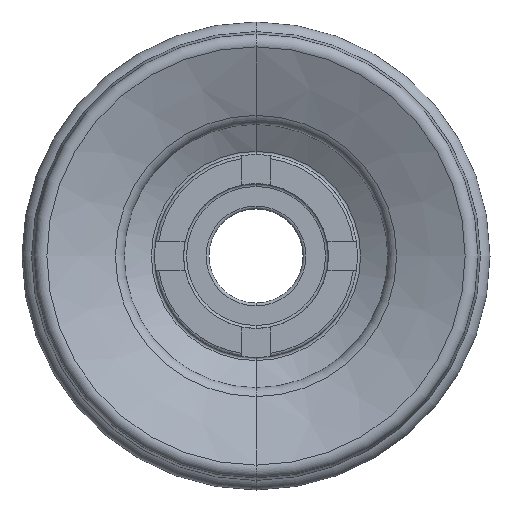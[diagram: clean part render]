
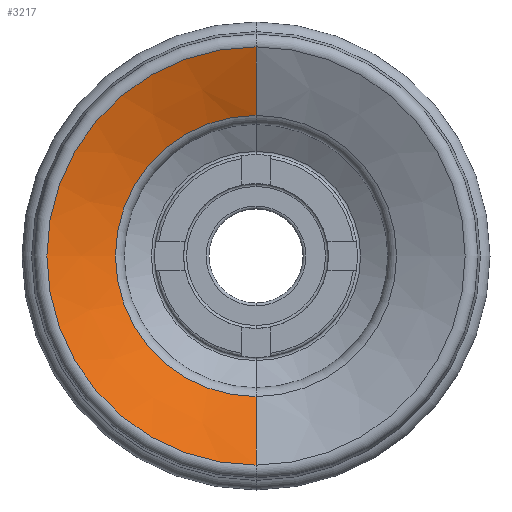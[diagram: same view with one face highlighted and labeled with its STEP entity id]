
A CAD part, front view. The second image highlights one B-rep face of the part: STEP entity #3217.
In plain terms, the highlighted conical face has half-angle 67.074 degrees and reference radius 9.71 mm.
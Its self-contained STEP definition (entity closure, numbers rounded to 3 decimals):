
#71 = DIRECTION ( 'NONE',  ( 0., 1., 0. ) ) ;
#174 = DIRECTION ( 'NONE',  ( 0., 1., 0. ) ) ;
#182 = CIRCLE ( 'NONE', #3145, 14.447 ) ;
#278 = VERTEX_POINT ( 'NONE', #2121 ) ;
#302 = VECTOR ( 'NONE', #1058, 1000. ) ;
#352 = DIRECTION ( 'NONE',  ( 0., -0.39, -0.921 ) ) ;
#366 = CARTESIAN_POINT ( 'NONE',  ( 0., -17.149, 14.447 ) ) ;
#465 = CIRCLE ( 'NONE', #3227, 9.71 ) ;
#481 = EDGE_CURVE ( 'NONE', #2558, #2421, #182, .T. ) ;
#543 = CARTESIAN_POINT ( 'NONE',  ( 0., -15.145, 9.71 ) ) ;
#597 = ORIENTED_EDGE ( 'NONE', *, *, #1752, .T. ) ;
#636 = FACE_OUTER_BOUND ( 'NONE', #940, .T. ) ;
#643 = CARTESIAN_POINT ( 'NONE',  ( 0., -15.145, -9.71 ) ) ;
#646 = CARTESIAN_POINT ( 'NONE',  ( 0., -17.149, -14.447 ) ) ;
#842 = CARTESIAN_POINT ( 'NONE',  ( 0., -17.149, 0. ) ) ;
#940 = EDGE_LOOP ( 'NONE', ( #597, #2718, #3111, #2508 ) ) ;
#1058 = DIRECTION ( 'NONE',  ( 0., -0.39, 0.921 ) ) ;
#1063 = DIRECTION ( 'NONE',  ( 0., 0., 1. ) ) ;
#1134 = AXIS2_PLACEMENT_3D ( 'NONE', #2600, #2323, #2806 ) ;
#1174 = CARTESIAN_POINT ( 'NONE',  ( 0., -15.145, 0. ) ) ;
#1291 = CARTESIAN_POINT ( 'NONE',  ( 0., -15.145, 9.71 ) ) ;
#1451 = EDGE_CURVE ( 'NONE', #2811, #2421, #2411, .T. ) ;
#1461 = LINE ( 'NONE', #643, #2629 ) ;
#1642 = CONICAL_SURFACE ( 'NONE', #1134, 9.71, 1.171 ) ;
#1691 = EDGE_CURVE ( 'NONE', #278, #2558, #1461, .T. ) ;
#1752 = EDGE_CURVE ( 'NONE', #278, #2811, #465, .T. ) ;
#2121 = CARTESIAN_POINT ( 'NONE',  ( 0., -15.145, -9.71 ) ) ;
#2323 = DIRECTION ( 'NONE',  ( 0., -1., 0. ) ) ;
#2411 = LINE ( 'NONE', #543, #302 ) ;
#2421 = VERTEX_POINT ( 'NONE', #366 ) ;
#2508 = ORIENTED_EDGE ( 'NONE', *, *, #1691, .F. ) ;
#2558 = VERTEX_POINT ( 'NONE', #646 ) ;
#2600 = CARTESIAN_POINT ( 'NONE',  ( 0., -15.145, 0. ) ) ;
#2629 = VECTOR ( 'NONE', #352, 1000. ) ;
#2718 = ORIENTED_EDGE ( 'NONE', *, *, #1451, .T. ) ;
#2806 = DIRECTION ( 'NONE',  ( 0., 0., -1. ) ) ;
#2811 = VERTEX_POINT ( 'NONE', #1291 ) ;
#2987 = DIRECTION ( 'NONE',  ( 0., 0., 1. ) ) ;
#3111 = ORIENTED_EDGE ( 'NONE', *, *, #481, .F. ) ;
#3145 = AXIS2_PLACEMENT_3D ( 'NONE', #842, #71, #1063 ) ;
#3217 = ADVANCED_FACE ( 'NONE', ( #636 ), #1642, .F. ) ;
#3227 = AXIS2_PLACEMENT_3D ( 'NONE', #1174, #174, #2987 ) ;
